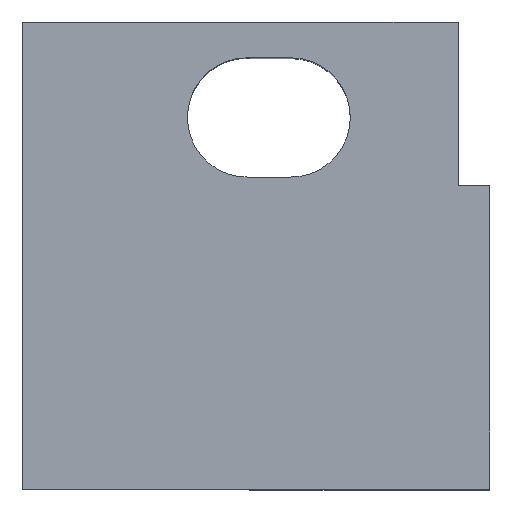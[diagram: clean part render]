
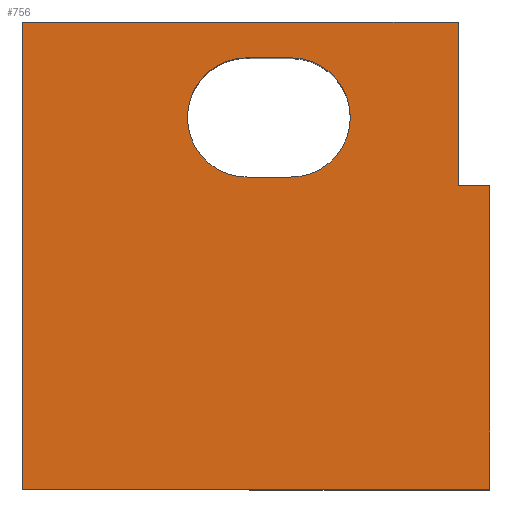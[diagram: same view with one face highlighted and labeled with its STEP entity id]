
A CAD part, top view. The second image highlights one B-rep face of the part: STEP entity #756.
In plain terms, the highlighted planar face has unit normal (0, 0, 1).
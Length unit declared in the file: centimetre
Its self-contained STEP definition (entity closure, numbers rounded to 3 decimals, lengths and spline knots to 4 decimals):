
#9 = AXIS2_PLACEMENT_3D ( 'NONE', #483, #719, #494 ) ;
#12 = CARTESIAN_POINT ( 'NONE',  ( 574.2395, 923.4744, 1000. ) ) ;
#31 = EDGE_CURVE ( 'NONE', #942, #297, #921, .T. ) ;
#33 = ORIENTED_EDGE ( 'NONE', *, *, #924, .T. ) ;
#38 = VECTOR ( 'NONE', #81, 100. ) ;
#41 = VERTEX_POINT ( 'NONE', #914 ) ;
#54 = CARTESIAN_POINT ( 'NONE',  ( 932.5967, 1000., 1000. ) ) ;
#55 = LINE ( 'NONE', #128, #859 ) ;
#58 = DIRECTION ( 'NONE',  ( 1., 0., 0. ) ) ;
#59 = VECTOR ( 'NONE', #536, 100. ) ;
#72 = EDGE_LOOP ( 'NONE', ( #223, #33, #336, #788, #1003, #343 ) ) ;
#81 = DIRECTION ( 'NONE',  ( -1., 0., 0. ) ) ;
#115 = DIRECTION ( 'NONE',  ( 0., 0., 1. ) ) ;
#128 = CARTESIAN_POINT ( 'NONE',  ( 1000., 1000., 1000. ) ) ;
#135 = DIRECTION ( 'NONE',  ( 1., 0., 0. ) ) ;
#142 = CARTESIAN_POINT ( 'NONE',  ( 932.5967, 650.6449, 1000. ) ) ;
#145 = CARTESIAN_POINT ( 'NONE',  ( 480.962, 795.7653, 1000. ) ) ;
#149 = ORIENTED_EDGE ( 'NONE', *, *, #31, .T. ) ;
#163 = DIRECTION ( 'NONE',  ( 0., 1., 0. ) ) ;
#204 = DIRECTION ( 'NONE',  ( 1., 0., 0. ) ) ;
#223 = ORIENTED_EDGE ( 'NONE', *, *, #926, .T. ) ;
#233 = CARTESIAN_POINT ( 'NONE',  ( 0., 1000., 1000. ) ) ;
#241 = CARTESIAN_POINT ( 'NONE',  ( 480.962, 668.0562, 1000. ) ) ;
#257 = VECTOR ( 'NONE', #163, 100. ) ;
#266 = EDGE_CURVE ( 'NONE', #958, #41, #557, .T. ) ;
#269 = ORIENTED_EDGE ( 'NONE', *, *, #540, .T. ) ;
#277 = PLANE ( 'NONE',  #448 ) ;
#280 = LINE ( 'NONE', #891, #400 ) ;
#297 = VERTEX_POINT ( 'NONE', #860 ) ;
#327 = EDGE_CURVE ( 'NONE', #799, #996, #428, .T. ) ;
#336 = ORIENTED_EDGE ( 'NONE', *, *, #867, .T. ) ;
#343 = ORIENTED_EDGE ( 'NONE', *, *, #266, .F. ) ;
#348 = DIRECTION ( 'NONE',  ( 1., 0., 0. ) ) ;
#351 = VERTEX_POINT ( 'NONE', #787 ) ;
#352 = AXIS2_PLACEMENT_3D ( 'NONE', #145, #514, #348 ) ;
#354 = CARTESIAN_POINT ( 'NONE',  ( 574.2395, 795.7653, 1000. ) ) ;
#368 = DIRECTION ( 'NONE',  ( 0., 1., 0. ) ) ;
#375 = CARTESIAN_POINT ( 'NONE',  ( 574.2395, 668.0562, 1000. ) ) ;
#400 = VECTOR ( 'NONE', #204, 100. ) ;
#403 = DIRECTION ( 'NONE',  ( 1., 0., 0. ) ) ;
#415 = VECTOR ( 'NONE', #623, 100. ) ;
#421 = CARTESIAN_POINT ( 'NONE',  ( 0., 0., 1000. ) ) ;
#424 = EDGE_CURVE ( 'NONE', #731, #688, #280, .T. ) ;
#428 = CIRCLE ( 'NONE', #9, 127.7091 ) ;
#433 = FACE_BOUND ( 'NONE', #978, .T. ) ;
#448 = AXIS2_PLACEMENT_3D ( 'NONE', #896, #115, #135 ) ;
#474 = CARTESIAN_POINT ( 'NONE',  ( 480.962, 923.4744, 1000. ) ) ;
#483 = CARTESIAN_POINT ( 'NONE',  ( 480.962, 795.7653, 1000. ) ) ;
#494 = DIRECTION ( 'NONE',  ( 1., 0., 0. ) ) ;
#514 = DIRECTION ( 'NONE',  ( 0., 0., -1. ) ) ;
#521 = EDGE_CURVE ( 'NONE', #351, #942, #969, .T. ) ;
#522 = FACE_OUTER_BOUND ( 'NONE', #72, .T. ) ;
#531 = VERTEX_POINT ( 'NONE', #54 ) ;
#536 = DIRECTION ( 'NONE',  ( -1., 0., 0. ) ) ;
#540 = EDGE_CURVE ( 'NONE', #297, #799, #880, .T. ) ;
#554 = DIRECTION ( 'NONE',  ( 1., 0., 0. ) ) ;
#557 = LINE ( 'NONE', #878, #1004 ) ;
#577 = CARTESIAN_POINT ( 'NONE',  ( 353.2529, 795.7653, 1000. ) ) ;
#606 = ORIENTED_EDGE ( 'NONE', *, *, #327, .T. ) ;
#621 = VERTEX_POINT ( 'NONE', #726 ) ;
#623 = DIRECTION ( 'NONE',  ( 0., -1., 0. ) ) ;
#682 = LINE ( 'NONE', #233, #59 ) ;
#688 = VERTEX_POINT ( 'NONE', #775 ) ;
#691 = CARTESIAN_POINT ( 'NONE',  ( 0., 1000., 1000. ) ) ;
#719 = DIRECTION ( 'NONE',  ( 0., 0., -1. ) ) ;
#725 = ORIENTED_EDGE ( 'NONE', *, *, #521, .T. ) ;
#726 = CARTESIAN_POINT ( 'NONE',  ( 0., 1000., 1000. ) ) ;
#731 = VERTEX_POINT ( 'NONE', #421 ) ;
#756 = ADVANCED_FACE ( 'NONE', ( #433, #522 ), #277, .T. ) ;
#765 = EDGE_CURVE ( 'NONE', #688, #41, #55, .T. ) ;
#775 = CARTESIAN_POINT ( 'NONE',  ( 1000., 0., 1000. ) ) ;
#787 = CARTESIAN_POINT ( 'NONE',  ( 574.2395, 923.4744, 1000. ) ) ;
#788 = ORIENTED_EDGE ( 'NONE', *, *, #424, .T. ) ;
#797 = AXIS2_PLACEMENT_3D ( 'NONE', #354, #887, #58 ) ;
#799 = VERTEX_POINT ( 'NONE', #577 ) ;
#817 = ORIENTED_EDGE ( 'NONE', *, *, #999, .T. ) ;
#841 = LINE ( 'NONE', #691, #415 ) ;
#859 = VECTOR ( 'NONE', #368, 100. ) ;
#860 = CARTESIAN_POINT ( 'NONE',  ( 480.962, 668.0562, 1000. ) ) ;
#867 = EDGE_CURVE ( 'NONE', #621, #731, #841, .T. ) ;
#878 = CARTESIAN_POINT ( 'NONE',  ( 1000., 650.6449, 1000. ) ) ;
#880 = CIRCLE ( 'NONE', #352, 127.7091 ) ;
#887 = DIRECTION ( 'NONE',  ( 0., 0., -1. ) ) ;
#891 = CARTESIAN_POINT ( 'NONE',  ( 0., 0., 1000. ) ) ;
#896 = CARTESIAN_POINT ( 'NONE',  ( 0., 0., 1000. ) ) ;
#914 = CARTESIAN_POINT ( 'NONE',  ( 1000., 650.6449, 1000. ) ) ;
#921 = LINE ( 'NONE', #241, #38 ) ;
#924 = EDGE_CURVE ( 'NONE', #531, #621, #682, .T. ) ;
#926 = EDGE_CURVE ( 'NONE', #958, #531, #1007, .T. ) ;
#931 = VECTOR ( 'NONE', #554, 100. ) ;
#941 = LINE ( 'NONE', #12, #931 ) ;
#942 = VERTEX_POINT ( 'NONE', #375 ) ;
#958 = VERTEX_POINT ( 'NONE', #142 ) ;
#969 = CIRCLE ( 'NONE', #797, 127.7091 ) ;
#978 = EDGE_LOOP ( 'NONE', ( #269, #606, #817, #725, #149 ) ) ;
#996 = VERTEX_POINT ( 'NONE', #474 ) ;
#999 = EDGE_CURVE ( 'NONE', #996, #351, #941, .T. ) ;
#1003 = ORIENTED_EDGE ( 'NONE', *, *, #765, .T. ) ;
#1004 = VECTOR ( 'NONE', #403, 100. ) ;
#1007 = LINE ( 'NONE', #1011, #257 ) ;
#1011 = CARTESIAN_POINT ( 'NONE',  ( 932.5967, 650.6449, 1000. ) ) ;
